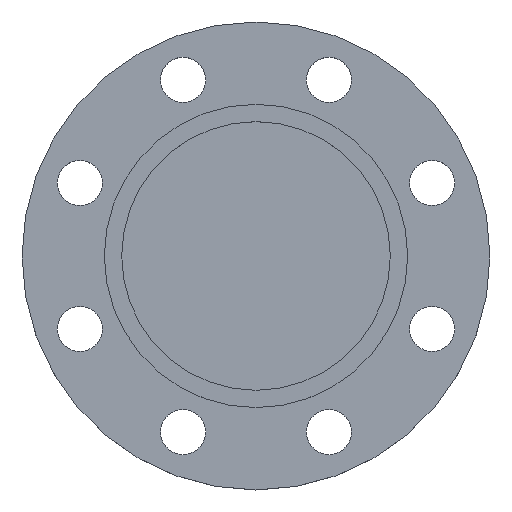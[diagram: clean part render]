
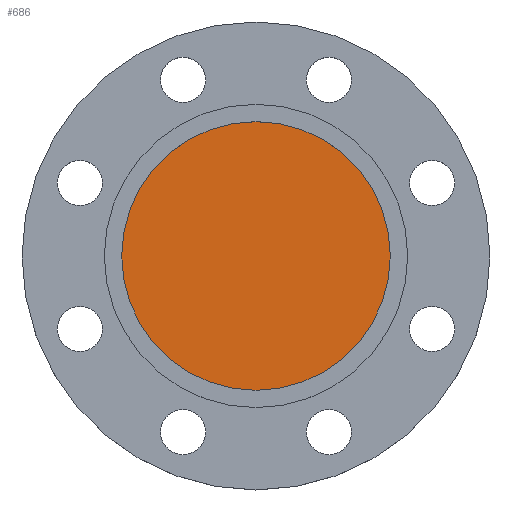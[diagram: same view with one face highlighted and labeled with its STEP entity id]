
A CAD part, top view. The second image highlights one B-rep face of the part: STEP entity #686.
In plain terms, the highlighted planar face has unit normal (0, 0, 1).
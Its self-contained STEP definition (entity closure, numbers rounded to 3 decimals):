
#43 = CIRCLE ( 'NONE', #644, 77.5 ) ;
#50 = EDGE_CURVE ( 'NONE', #702, #781, #43, .T. ) ;
#265 = CARTESIAN_POINT ( 'NONE',  ( 0., 0., -5. ) ) ;
#267 = DIRECTION ( 'NONE',  ( 0., 0., -1. ) ) ;
#268 = DIRECTION ( 'NONE',  ( -1., 0., 0. ) ) ;
#399 = AXIS2_PLACEMENT_3D ( 'NONE', #1008, #1007, #1004 ) ;
#403 = CIRCLE ( 'NONE', #399, 77.5 ) ;
#424 = AXIS2_PLACEMENT_3D ( 'NONE', #743, #741, #738 ) ;
#478 = EDGE_CURVE ( 'NONE', #781, #702, #403, .T. ) ;
#581 = CARTESIAN_POINT ( 'NONE',  ( -77.5, 0., -5. ) ) ;
#644 = AXIS2_PLACEMENT_3D ( 'NONE', #265, #267, #268 ) ;
#686 = ADVANCED_FACE ( 'NONE', ( #748 ), #746, .T. ) ;
#690 = EDGE_LOOP ( 'NONE', ( #844, #845 ) ) ;
#702 = VERTEX_POINT ( 'NONE', #712 ) ;
#712 = CARTESIAN_POINT ( 'NONE',  ( 77.5, 0., -5. ) ) ;
#738 = DIRECTION ( 'NONE',  ( 1., 0., 0. ) ) ;
#741 = DIRECTION ( 'NONE',  ( 0., 0., 1. ) ) ;
#743 = CARTESIAN_POINT ( 'NONE',  ( 77.5, 0., -5. ) ) ;
#746 = PLANE ( 'NONE',  #424 ) ;
#748 = FACE_OUTER_BOUND ( 'NONE', #690, .T. ) ;
#781 = VERTEX_POINT ( 'NONE', #581 ) ;
#844 = ORIENTED_EDGE ( 'NONE', *, *, #478, .F. ) ;
#845 = ORIENTED_EDGE ( 'NONE', *, *, #50, .F. ) ;
#1004 = DIRECTION ( 'NONE',  ( -1., 0., 0. ) ) ;
#1007 = DIRECTION ( 'NONE',  ( 0., 0., -1. ) ) ;
#1008 = CARTESIAN_POINT ( 'NONE',  ( 0., 0., -5. ) ) ;
